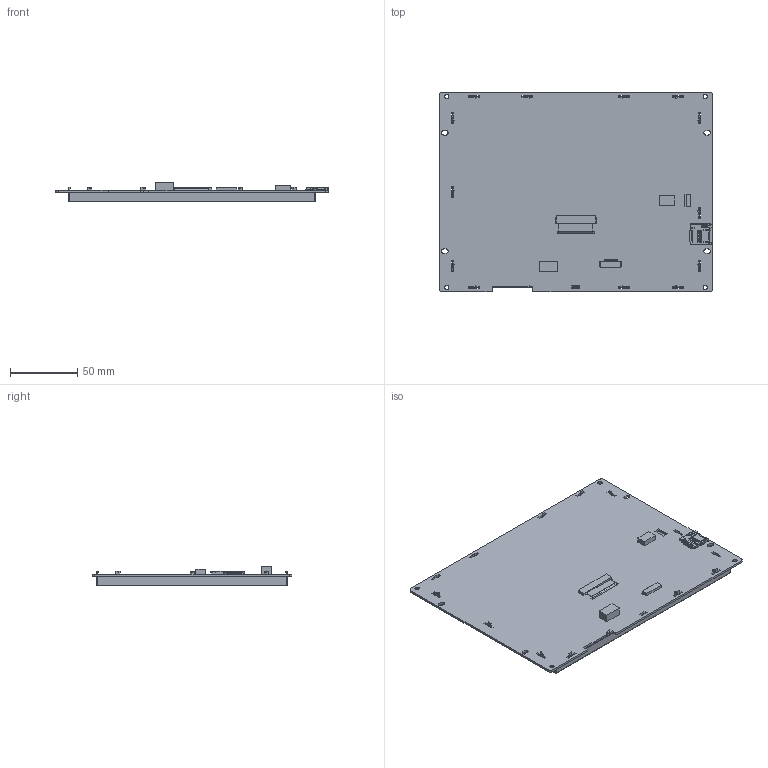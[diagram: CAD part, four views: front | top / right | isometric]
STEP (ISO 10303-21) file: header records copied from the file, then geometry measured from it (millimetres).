
FILE_DESCRIPTION(/* description */ (''),/* implementation_level */ '2;1');
FILE_NAME(/* name */ 'SDWb080T84N_stp.stp',/* time_stamp */ '2024-06-07T18:30:19+08:00',/* author */ (''),/* organization */ (''),/* preprocessor_version */ 'ST-DEVELOPER v16',/* originating_system */ 'SIEMENS PLM Software NX 10.0',/* authorisation */ '');
FILE_SCHEMA (('AP203_CONFIGURATION_CONTROLLED_3D_DESIGN_OF_MECHANICAL_PARTS_AND_ASSEMBLIES_MIM_LF { 1 0 10303 403 2 1 2}'));
Length unit declared in the file: millimetre
Products named in the file (1): SDWb080T84N_stp
Bounding box: 203.02 x 148.8 x 14.8 mm (x, y, z)
Volume: 172260.3 mm3; surface area: 137210.7 mm2
Topology: 13 solids, 13 shells, 1330 faces, 3791 edges, 2463 vertices
Faces by surface type: plane 1007, cylinder 322, cone 1
Full cylindrical faces by diameter (mm): 3.2 x4
Entity records: 44209 total; most frequent: CARTESIAN_POINT 7617, ORIENTED_EDGE 7574, DIRECTION 7082, EDGE_CURVE 3787, LINE 3130, VECTOR 3130, VERTEX_POINT 2463, AXIS2_PLACEMENT_3D 1976
